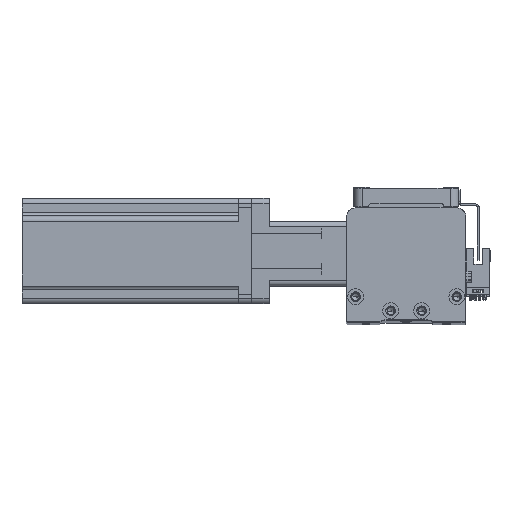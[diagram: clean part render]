
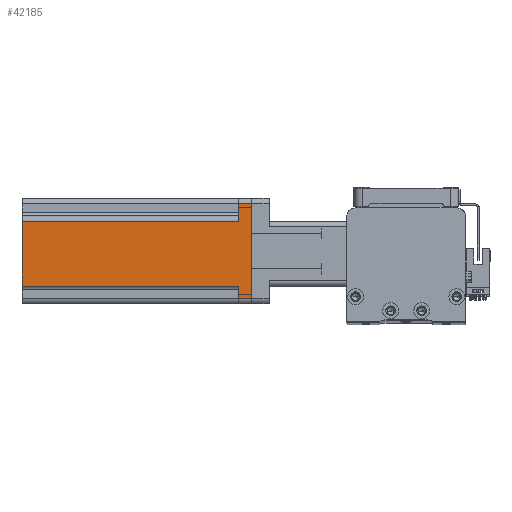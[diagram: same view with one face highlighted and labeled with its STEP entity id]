
A CAD part, top view. The second image highlights one B-rep face of the part: STEP entity #42185.
In plain terms, the highlighted planar face has unit normal (0, 0, 1) as drawn and (-1, 0, 0) by its records, which use the part's own axes.
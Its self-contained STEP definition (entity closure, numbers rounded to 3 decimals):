
#1366 = AXIS2_PLACEMENT_3D ( 'NONE', #9981, #34384, #13494 ) ;
#2995 = EDGE_CURVE ( 'NONE', #37516, #45093, #14144, .T. ) ;
#3026 = CARTESIAN_POINT ( 'NONE',  ( -30., 20., 130.7 ) ) ;
#3576 = CARTESIAN_POINT ( 'NONE',  ( -30., -27., 130.7 ) ) ;
#3671 = ORIENTED_EDGE ( 'NONE', *, *, #36000, .T. ) ;
#4083 = VERTEX_POINT ( 'NONE', #7307 ) ;
#4794 = VECTOR ( 'NONE', #12219, 1000. ) ;
#5429 = EDGE_LOOP ( 'NONE', ( #42131, #17777, #21062, #20553, #31449, #26308, #30978, #3671 ) ) ;
#5708 = EDGE_CURVE ( 'NONE', #37516, #16177, #29553, .T. ) ;
#6003 = LINE ( 'NONE', #30865, #42040 ) ;
#6210 = EDGE_CURVE ( 'NONE', #35307, #16177, #6003, .T. ) ;
#6274 = CARTESIAN_POINT ( 'NONE',  ( -30., 27., 7.5 ) ) ;
#7307 = CARTESIAN_POINT ( 'NONE',  ( -30., -27., 0. ) ) ;
#8198 = DIRECTION ( 'NONE',  ( 0., -1., 0. ) ) ;
#8916 = LINE ( 'NONE', #40977, #10044 ) ;
#9037 = VERTEX_POINT ( 'NONE', #31678 ) ;
#9524 = CARTESIAN_POINT ( 'NONE',  ( -30., -17., 130.7 ) ) ;
#9981 = CARTESIAN_POINT ( 'NONE',  ( -30., -30., 130.7 ) ) ;
#10044 = VECTOR ( 'NONE', #20061, 1000. ) ;
#10718 = EDGE_CURVE ( 'NONE', #20544, #31480, #41755, .T. ) ;
#11093 = CARTESIAN_POINT ( 'NONE',  ( -30., -17., 7.5 ) ) ;
#12219 = DIRECTION ( 'NONE',  ( 0., 0., 1. ) ) ;
#12313 = CARTESIAN_POINT ( 'NONE',  ( -30., -27., 7.5 ) ) ;
#13494 = DIRECTION ( 'NONE',  ( 0., 0., -1. ) ) ;
#13894 = VECTOR ( 'NONE', #16276, 1000. ) ;
#14144 = LINE ( 'NONE', #25926, #23439 ) ;
#14972 = CARTESIAN_POINT ( 'NONE',  ( -30., -30., 0. ) ) ;
#16177 = VERTEX_POINT ( 'NONE', #9524 ) ;
#16276 = DIRECTION ( 'NONE',  ( 0., 1., 0. ) ) ;
#17777 = ORIENTED_EDGE ( 'NONE', *, *, #5708, .T. ) ;
#18001 = FACE_OUTER_BOUND ( 'NONE', #5429, .T. ) ;
#19383 = EDGE_CURVE ( 'NONE', #20544, #35307, #23360, .T. ) ;
#20061 = DIRECTION ( 'NONE',  ( 0., 0., -1. ) ) ;
#20544 = VERTEX_POINT ( 'NONE', #40526 ) ;
#20553 = ORIENTED_EDGE ( 'NONE', *, *, #19383, .F. ) ;
#21062 = ORIENTED_EDGE ( 'NONE', *, *, #6210, .F. ) ;
#22301 = CARTESIAN_POINT ( 'NONE',  ( -30., -17., 130.7 ) ) ;
#22452 = DIRECTION ( 'NONE',  ( 0., 0., 1. ) ) ;
#23360 = LINE ( 'NONE', #36608, #4794 ) ;
#23439 = VECTOR ( 'NONE', #8198, 1000. ) ;
#24479 = DIRECTION ( 'NONE',  ( 0., 0., 1. ) ) ;
#25524 = DIRECTION ( 'NONE',  ( 0., -1., 0. ) ) ;
#25926 = CARTESIAN_POINT ( 'NONE',  ( -30., -30., 7.5 ) ) ;
#26308 = ORIENTED_EDGE ( 'NONE', *, *, #34049, .T. ) ;
#27362 = VECTOR ( 'NONE', #22452, 1000. ) ;
#29553 = LINE ( 'NONE', #22301, #27362 ) ;
#30865 = CARTESIAN_POINT ( 'NONE',  ( -30., -30., 130.7 ) ) ;
#30978 = ORIENTED_EDGE ( 'NONE', *, *, #38175, .T. ) ;
#31449 = ORIENTED_EDGE ( 'NONE', *, *, #10718, .T. ) ;
#31480 = VERTEX_POINT ( 'NONE', #6274 ) ;
#31678 = CARTESIAN_POINT ( 'NONE',  ( -30., 27., 0. ) ) ;
#31830 = VECTOR ( 'NONE', #24479, 1000. ) ;
#34049 = EDGE_CURVE ( 'NONE', #31480, #9037, #8916, .T. ) ;
#34384 = DIRECTION ( 'NONE',  ( 1., 0., 0. ) ) ;
#34791 = VECTOR ( 'NONE', #25524, 1000. ) ;
#35307 = VERTEX_POINT ( 'NONE', #3026 ) ;
#35888 = LINE ( 'NONE', #14972, #34791 ) ;
#36000 = EDGE_CURVE ( 'NONE', #4083, #45093, #42203, .T. ) ;
#36608 = CARTESIAN_POINT ( 'NONE',  ( -30., 20., 7.5 ) ) ;
#37516 = VERTEX_POINT ( 'NONE', #11093 ) ;
#37737 = PLANE ( 'NONE',  #1366 ) ;
#38175 = EDGE_CURVE ( 'NONE', #9037, #4083, #35888, .T. ) ;
#40526 = CARTESIAN_POINT ( 'NONE',  ( -30., 20., 7.5 ) ) ;
#40977 = CARTESIAN_POINT ( 'NONE',  ( -30., 27., 130.7 ) ) ;
#41409 = DIRECTION ( 'NONE',  ( 0., -1., 0. ) ) ;
#41755 = LINE ( 'NONE', #44201, #13894 ) ;
#42040 = VECTOR ( 'NONE', #41409, 1000. ) ;
#42131 = ORIENTED_EDGE ( 'NONE', *, *, #2995, .F. ) ;
#42185 = ADVANCED_FACE ( 'NONE', ( #18001 ), #37737, .F. ) ;
#42203 = LINE ( 'NONE', #3576, #31830 ) ;
#44201 = CARTESIAN_POINT ( 'NONE',  ( -30., 30., 7.5 ) ) ;
#45093 = VERTEX_POINT ( 'NONE', #12313 ) ;
